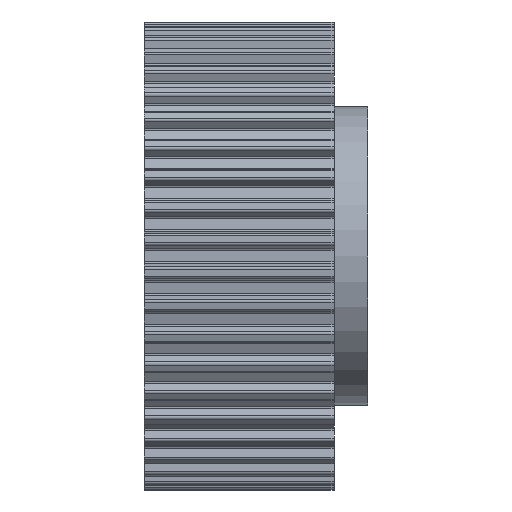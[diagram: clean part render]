
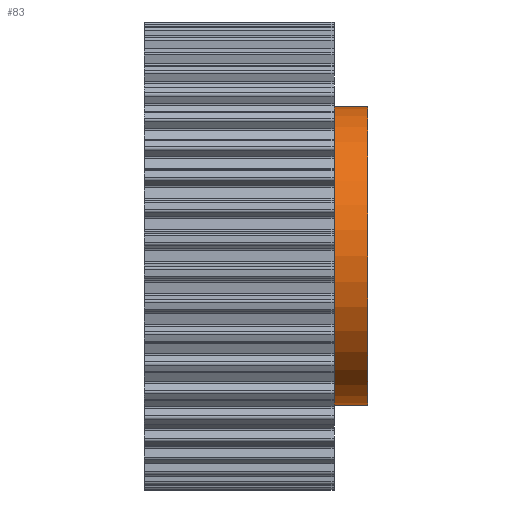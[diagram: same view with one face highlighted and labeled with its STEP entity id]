
A CAD part, front view. The second image highlights one B-rep face of the part: STEP entity #83.
In plain terms, the highlighted cylindrical face has radius 44 mm (diameter 88 mm), a full revolution.
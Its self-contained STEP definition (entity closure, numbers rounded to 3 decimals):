
#83 = ADVANCED_FACE( '', ( #453, #454 ), #455, .T. );
#453 = FACE_OUTER_BOUND( '', #1172, .T. );
#454 = FACE_OUTER_BOUND( '', #1173, .T. );
#455 = CYLINDRICAL_SURFACE( '', #1174, 44. );
#1172 = EDGE_LOOP( '', ( #2621 ) );
#1173 = EDGE_LOOP( '', ( #2622 ) );
#1174 = AXIS2_PLACEMENT_3D( '', #2623, #2624, #2625 );
#2621 = ORIENTED_EDGE( '', *, *, #5772, .T. );
#2622 = ORIENTED_EDGE( '', *, *, #5774, .F. );
#2623 = CARTESIAN_POINT( '', ( 66., 0., 0. ) );
#2624 = DIRECTION( '', ( -1., 0., 0. ) );
#2625 = DIRECTION( '', ( 0., 0., -1. ) );
#5772 = EDGE_CURVE( '', #7537, #7537, #7538, .T. );
#5774 = EDGE_CURVE( '', #7541, #7541, #7542, .T. );
#7537 = VERTEX_POINT( '', #9574 );
#7538 = CIRCLE( '', #9575, 44. );
#7541 = VERTEX_POINT( '', #9578 );
#7542 = CIRCLE( '', #9579, 44. );
#9574 = CARTESIAN_POINT( '', ( 56., 0., -44. ) );
#9575 = AXIS2_PLACEMENT_3D( '', #11866, #11867, #11868 );
#9578 = CARTESIAN_POINT( '', ( 66., 0., -44. ) );
#9579 = AXIS2_PLACEMENT_3D( '', #11872, #11873, #11874 );
#11866 = CARTESIAN_POINT( '', ( 56., 0., 0. ) );
#11867 = DIRECTION( '', ( 1., 0., 0. ) );
#11868 = DIRECTION( '', ( 0., 0., -1. ) );
#11872 = CARTESIAN_POINT( '', ( 66., 0., 0. ) );
#11873 = DIRECTION( '', ( 1., 0., 0. ) );
#11874 = DIRECTION( '', ( 0., 0., -1. ) );
